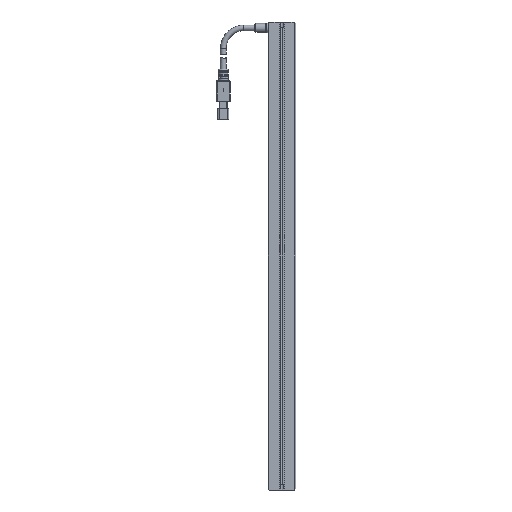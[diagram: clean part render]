
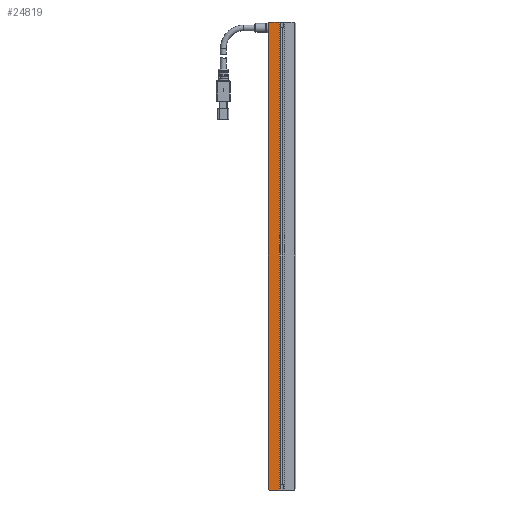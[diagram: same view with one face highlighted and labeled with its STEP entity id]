
A CAD part, front view. The second image highlights one B-rep face of the part: STEP entity #24819.
In plain terms, the highlighted planar face has unit normal (0, -1, 0).
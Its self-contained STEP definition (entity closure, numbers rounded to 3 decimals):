
#574 = CARTESIAN_POINT ( 'NONE',  ( -9., 0., -170. ) ) ;
#808 = DIRECTION ( 'NONE',  ( 0.707, 0., -0.707 ) ) ;
#2355 = AXIS2_PLACEMENT_3D ( 'NONE', #16948, #14745, #4687 ) ;
#2408 = VECTOR ( 'NONE', #16912, 1000. ) ;
#2675 = CARTESIAN_POINT ( 'NONE',  ( -4.5, 0., 174.5 ) ) ;
#3444 = VERTEX_POINT ( 'NONE', #21768 ) ;
#3507 = EDGE_LOOP ( 'NONE', ( #14001, #13550, #4652, #23308, #21936, #7686 ) ) ;
#3596 = EDGE_CURVE ( 'NONE', #3444, #14604, #9883, .T. ) ;
#3708 = DIRECTION ( 'NONE',  ( 0., 0., -1. ) ) ;
#3716 = VERTEX_POINT ( 'NONE', #14380 ) ;
#3740 = CARTESIAN_POINT ( 'NONE',  ( -9., 0., 170. ) ) ;
#4652 = ORIENTED_EDGE ( 'NONE', *, *, #8823, .T. ) ;
#4687 = DIRECTION ( 'NONE',  ( 1., 0., 0. ) ) ;
#5497 = DIRECTION ( 'NONE',  ( 0., 0., -1. ) ) ;
#5809 = CARTESIAN_POINT ( 'NONE',  ( -9.5, 0., 170. ) ) ;
#6019 = VERTEX_POINT ( 'NONE', #9183 ) ;
#7257 = FACE_OUTER_BOUND ( 'NONE', #3507, .T. ) ;
#7334 = LINE ( 'NONE', #13078, #23357 ) ;
#7686 = ORIENTED_EDGE ( 'NONE', *, *, #12540, .F. ) ;
#8800 = VECTOR ( 'NONE', #3708, 1000. ) ;
#8823 = EDGE_CURVE ( 'NONE', #6019, #23502, #25141, .T. ) ;
#9183 = CARTESIAN_POINT ( 'NONE',  ( -9.5, 0., 169.5 ) ) ;
#9482 = VECTOR ( 'NONE', #5497, 1000. ) ;
#9883 = LINE ( 'NONE', #15617, #20431 ) ;
#10022 = EDGE_CURVE ( 'NONE', #25554, #6019, #16743, .T. ) ;
#10410 = CARTESIAN_POINT ( 'NONE',  ( 0., 0., 170. ) ) ;
#10795 = PLANE ( 'NONE',  #2355 ) ;
#11415 = DIRECTION ( 'NONE',  ( -1., 0., 0. ) ) ;
#12540 = EDGE_CURVE ( 'NONE', #3716, #3444, #18094, .T. ) ;
#12945 = CARTESIAN_POINT ( 'NONE',  ( -9.5, 0., -169.5 ) ) ;
#13078 = CARTESIAN_POINT ( 'NONE',  ( -174.5, 0., -4.5 ) ) ;
#13550 = ORIENTED_EDGE ( 'NONE', *, *, #10022, .T. ) ;
#14001 = ORIENTED_EDGE ( 'NONE', *, *, #14130, .T. ) ;
#14130 = EDGE_CURVE ( 'NONE', #3716, #25554, #19614, .T. ) ;
#14194 = VECTOR ( 'NONE', #18650, 1000. ) ;
#14380 = CARTESIAN_POINT ( 'NONE',  ( -1.75, 0., 170. ) ) ;
#14604 = VERTEX_POINT ( 'NONE', #574 ) ;
#14745 = DIRECTION ( 'NONE',  ( 0., -1., 0. ) ) ;
#15105 = EDGE_CURVE ( 'NONE', #23502, #14604, #7334, .T. ) ;
#15617 = CARTESIAN_POINT ( 'NONE',  ( 0., 0., -170. ) ) ;
#16743 = LINE ( 'NONE', #2675, #2408 ) ;
#16912 = DIRECTION ( 'NONE',  ( -0.707, 0., -0.707 ) ) ;
#16948 = CARTESIAN_POINT ( 'NONE',  ( 0., 0., 170. ) ) ;
#18094 = LINE ( 'NONE', #23862, #9482 ) ;
#18650 = DIRECTION ( 'NONE',  ( -1., 0., 0. ) ) ;
#19614 = LINE ( 'NONE', #10410, #14194 ) ;
#20431 = VECTOR ( 'NONE', #11415, 1000. ) ;
#21768 = CARTESIAN_POINT ( 'NONE',  ( -1.75, 0., -170. ) ) ;
#21936 = ORIENTED_EDGE ( 'NONE', *, *, #3596, .F. ) ;
#23308 = ORIENTED_EDGE ( 'NONE', *, *, #15105, .T. ) ;
#23357 = VECTOR ( 'NONE', #808, 1000. ) ;
#23502 = VERTEX_POINT ( 'NONE', #12945 ) ;
#23862 = CARTESIAN_POINT ( 'NONE',  ( -1.75, 0., 170. ) ) ;
#24819 = ADVANCED_FACE ( 'NONE', ( #7257 ), #10795, .T. ) ;
#25141 = LINE ( 'NONE', #5809, #8800 ) ;
#25554 = VERTEX_POINT ( 'NONE', #3740 ) ;
